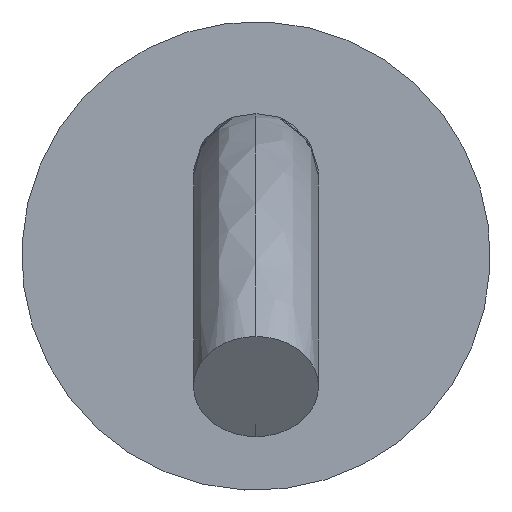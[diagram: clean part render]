
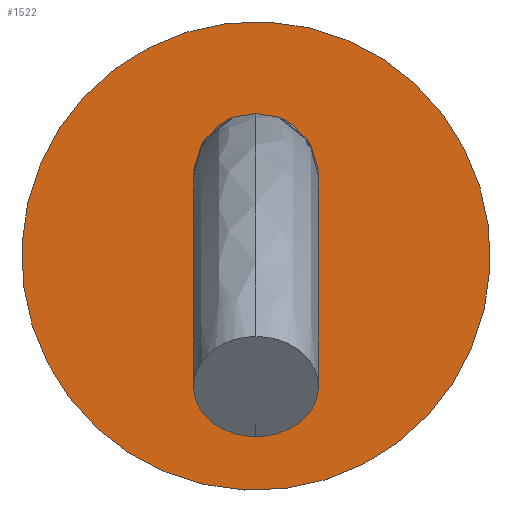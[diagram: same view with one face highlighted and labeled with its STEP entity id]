
A CAD part, front view. The second image highlights one B-rep face of the part: STEP entity #1522.
In plain terms, the highlighted planar face has unit normal (0, -1, 0).
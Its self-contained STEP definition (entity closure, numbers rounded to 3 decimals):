
#15 = CARTESIAN_POINT ( 'NONE',  ( 0., -285.963, -8.5 ) ) ;
#67 = CARTESIAN_POINT ( 'NONE',  ( 0., -285.963, -4.5 ) ) ;
#114 = CIRCLE ( 'NONE', #814, 4. ) ;
#145 = CARTESIAN_POINT ( 'NONE',  ( 0., -285.963, -4.5 ) ) ;
#320 = VERTEX_POINT ( 'NONE', #15 ) ;
#385 = ORIENTED_EDGE ( 'NONE', *, *, #1246, .T. ) ;
#431 = CARTESIAN_POINT ( 'NONE',  ( 10.995, -285.963, -14.703 ) ) ;
#469 = ORIENTED_EDGE ( 'NONE', *, *, #616, .F. ) ;
#473 = CIRCLE ( 'NONE', #532, 4. ) ;
#518 = EDGE_CURVE ( 'NONE', #1458, #320, #473, .T. ) ;
#532 = AXIS2_PLACEMENT_3D ( 'NONE', #1354, #776, #1825 ) ;
#548 = VERTEX_POINT ( 'NONE', #976 ) ;
#576 = CARTESIAN_POINT ( 'NONE',  ( 0., -285.963, -4.5 ) ) ;
#616 = EDGE_CURVE ( 'NONE', #320, #1458, #114, .T. ) ;
#628 = VERTEX_POINT ( 'NONE', #431 ) ;
#736 = EDGE_LOOP ( 'NONE', ( #469, #1426 ) ) ;
#767 = DIRECTION ( 'NONE',  ( 0., -1., 0. ) ) ;
#776 = DIRECTION ( 'NONE',  ( 0., -1., 0. ) ) ;
#791 = EDGE_LOOP ( 'NONE', ( #836, #385 ) ) ;
#814 = AXIS2_PLACEMENT_3D ( 'NONE', #145, #1173, #994 ) ;
#836 = ORIENTED_EDGE ( 'NONE', *, *, #1327, .T. ) ;
#847 = CIRCLE ( 'NONE', #1031, 15. ) ;
#957 = DIRECTION ( 'NONE',  ( 0., -1., 0. ) ) ;
#976 = CARTESIAN_POINT ( 'NONE',  ( -10.995, -285.963, 5.703 ) ) ;
#994 = DIRECTION ( 'NONE',  ( 0., 0., -1. ) ) ;
#1010 = DIRECTION ( 'NONE',  ( 0.733, 0., -0.68 ) ) ;
#1031 = AXIS2_PLACEMENT_3D ( 'NONE', #576, #767, #1177 ) ;
#1111 = FACE_OUTER_BOUND ( 'NONE', #791, .T. ) ;
#1173 = DIRECTION ( 'NONE',  ( 0., -1., 0. ) ) ;
#1177 = DIRECTION ( 'NONE',  ( 0.733, 0., -0.68 ) ) ;
#1246 = EDGE_CURVE ( 'NONE', #628, #548, #1333, .T. ) ;
#1250 = FACE_BOUND ( 'NONE', #736, .T. ) ;
#1302 = CARTESIAN_POINT ( 'NONE',  ( 0., -285.963, -4.5 ) ) ;
#1327 = EDGE_CURVE ( 'NONE', #548, #628, #847, .T. ) ;
#1333 = CIRCLE ( 'NONE', #1577, 15. ) ;
#1354 = CARTESIAN_POINT ( 'NONE',  ( 0., -285.963, -4.5 ) ) ;
#1426 = ORIENTED_EDGE ( 'NONE', *, *, #518, .F. ) ;
#1458 = VERTEX_POINT ( 'NONE', #1603 ) ;
#1522 = ADVANCED_FACE ( 'NONE', ( #1111, #1250 ), #1820, .T. ) ;
#1527 = AXIS2_PLACEMENT_3D ( 'NONE', #67, #957, #1828 ) ;
#1577 = AXIS2_PLACEMENT_3D ( 'NONE', #1302, #1579, #1010 ) ;
#1579 = DIRECTION ( 'NONE',  ( 0., -1., 0. ) ) ;
#1603 = CARTESIAN_POINT ( 'NONE',  ( 0., -285.963, -0.5 ) ) ;
#1820 = PLANE ( 'NONE',  #1527 ) ;
#1825 = DIRECTION ( 'NONE',  ( 0., 0., -1. ) ) ;
#1828 = DIRECTION ( 'NONE',  ( -1., 0., 0. ) ) ;
